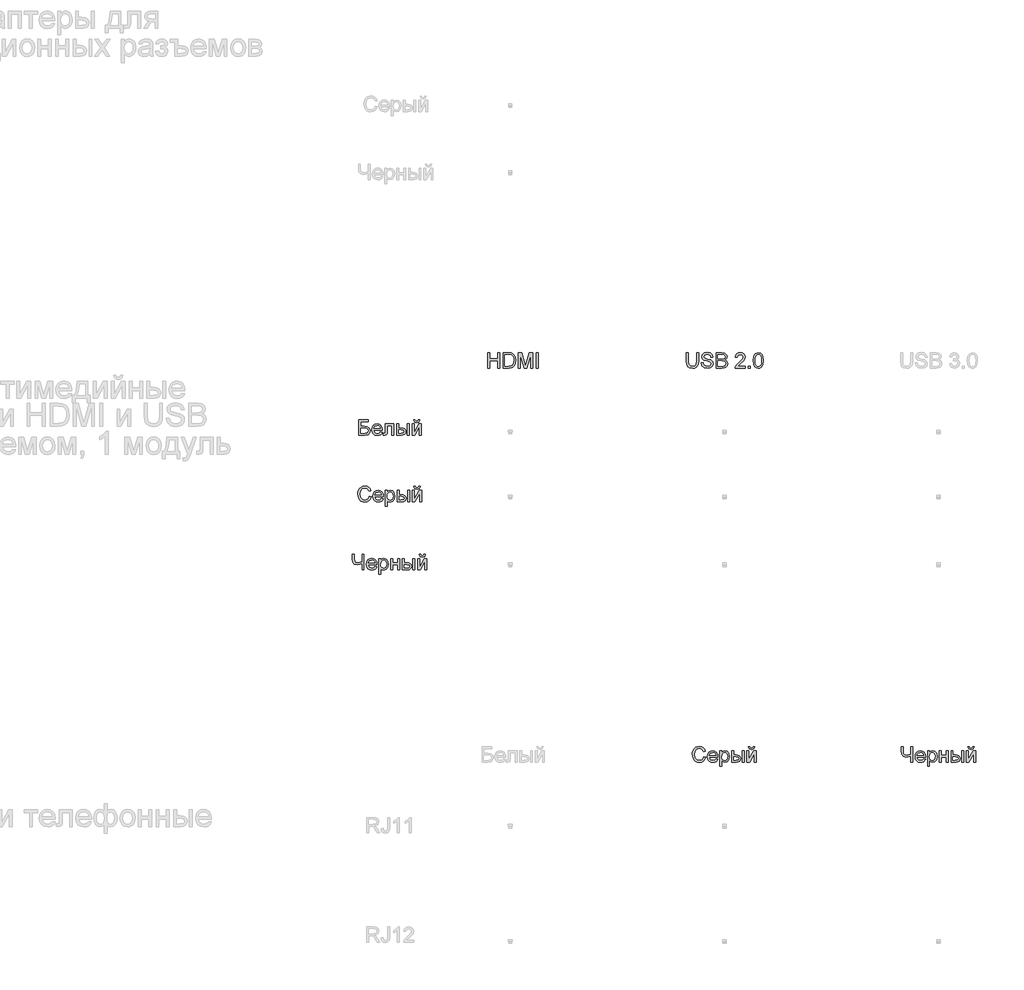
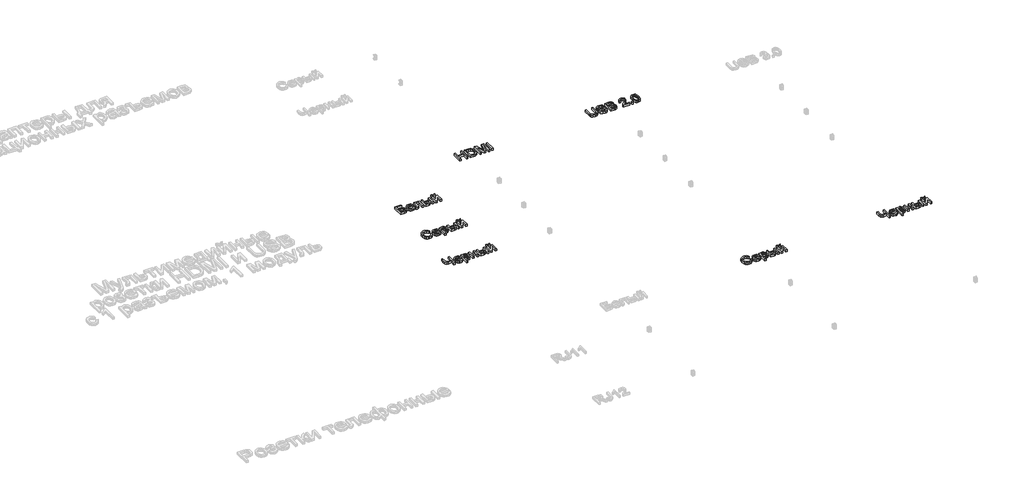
# One storey, part 10 of 15: 7 proxies.
"""IFC4 building model written with IfcOpenShell, lengths in millimetres."""

from ifc_helpers import new_model, si_unit, origin, origin_with_axes, place, context, project, spatial, polyline, outline, extrude, element, save

model = new_model("IFC4")

# Units and contexts
model_context = context("Model", 3, world=origin())
ifc_project = project(units=[si_unit("LENGTHUNIT", "METRE", prefix="MILLI")], contexts=[model_context])

# Site, building, storey
site = spatial("IfcSite", under=ifc_project)
building = spatial("IfcBuilding", under=site)
storey = spatial("IfcBuildingStorey", under=building, Name="Этаж 01", Elevation=0.0)

# Proxies
placement = place(None, origin())
element("IfcBuildingElementProxy", 1, Name="100 мм Arial", ObjectType="100 мм Arial", at=placement, inside=storey, context=model_context, shape_type="SweptSolid", body=[
    extrude(outline(polyline([(1361.0502474, -408.687092), (1361.0502474, -308.2307819), (1373.6072862, -308.2307819), (1373.6072862, -349.0411579), (1426.9747009, -349.0411579), (1426.9747009, -308.2307819), (1439.5317397, -308.2307819), (1439.5317397, -408.687092), (1426.9747009, -408.687092), (1426.9747009, -361.5981967), (1373.6072862, -361.5981967), (1373.6072862, -408.687092), (1361.0502474, -408.687092)])), origin_with_axes(), (0.0, 0.0, 1.0), 20.0),
    extrude(outline(polyline([(1461.5065576, -408.687092), (1461.5065576, -308.2307819), (1496.1610415, -308.2307819), (1514.0891574, -309.6777844), (1528.8534881, -316.8637461), (1540.7483393, -334.0315725), (1544.6969394, -357.9193767), (1542.0236636, -378.1896746), (1535.156533, -392.8191153), (1525.9840086, -401.9303261), (1513.9787928, -406.9703094), (1497.8287732, -408.687092), (1461.5065576, -408.687092)]), holes=[polyline([(1474.0635963, -396.1300533), (1496.2836688, -396.1300533), (1512.4459512, -394.3151688), (1521.7656284, -389.1893463), (1529.4053111, -376.7181467), (1532.1399006, -357.723173), (1530.800197, -344.0379628), (1526.7810862, -333.9334706), (1513.7458009, -322.7989089), (1495.9403123, -320.7878207), (1474.0635963, -320.7878207), (1474.0635963, -396.1300533)])]), origin_with_axes(), (0.0, 0.0, 1.0), 20.0),
    extrude(outline(polyline([(1561.9628677, -408.687092), (1561.9628677, -308.2307819), (1583.5698036, -308.2307819), (1604.1221444, -379.0358032), (1608.2669482, -393.8246594), (1612.7551085, -377.8095299), (1632.9640928, -308.2307819), (1654.5710286, -308.2307819), (1654.5710286, -408.687092), (1642.0139899, -408.687092), (1642.0139899, -320.7878207), (1616.777285, -408.687092), (1599.7566113, -408.687092), (1574.5199065, -320.7878207), (1574.5199065, -408.687092), (1561.9628677, -408.687092)])), origin_with_axes(), (0.0, 0.0, 1.0), 20.0),
    extrude(outline(polyline([(1678.1154763, -408.687092), (1678.1154763, -308.2307819), (1690.6725151, -308.2307819), (1690.6725151, -408.687092), (1678.1154763, -408.687092)])), origin_with_axes(), (0.0, 0.0, 1.0), 20.0),
])
element("IfcBuildingElementProxy", 2, Name="100 мм Arial", ObjectType="100 мм Arial", at=placement, inside=storey, context=model_context, shape_type="SweptSolid", body=[
    extrude(outline(polyline([(2726.9012045, -308.2307819), (2739.4582433, -308.2307819), (2739.4582433, -366.1844589), (2736.0492034, -390.2071532), (2723.7619448, -404.6771783), (2713.4980371, -408.861836), (2700.4627518, -410.2567219), (2677.519178, -405.4006796), (2669.8794952, -399.4563197), (2664.790461, -391.3353246), (2660.976751, -366.1844589), (2660.976751, -308.2307819), (2673.5337897, -308.2307819), (2673.5337897, -365.7430005), (2676.0108618, -384.885127), (2684.5211986, -394.3642197), (2699.2855294, -397.6996831), (2712.057166, -396.0503455), (2720.5491087, -391.1023327), (2725.3131805, -381.4638244), (2726.9012045, -365.7430005), (2726.9012045, -308.2307819)])), origin_with_axes(), (0.0, 0.0, 1.0), 20.0),
    extrude(outline(polyline([(2756.7241716, -374.1552354), (2769.2812103, -374.1552354), (2773.3279123, -386.7245369), (2783.2116752, -394.670788), (2798.2703116, -397.6996831), (2811.391436, -395.406552), (2819.8649847, -389.1035072), (2822.6486251, -380.6790095), (2820.5639605, -372.843123), (2812.0290982, -367.1409521), (2793.745363, -362.3462234), (2774.0636763, -356.1535431), (2763.3828357, -346.8093405), (2759.8634313, -334.3258781), (2764.2167015, -320.1133703), (2776.9331558, -310.0824546), (2795.5479848, -306.6611521), (2815.4136125, -310.2418701), (2828.6573644, -320.7632952), (2833.636034, -336.4841191), (2821.0789953, -336.4841191), (2818.7736014, -328.9915892), (2813.96661, -323.5837238), (2796.0384941, -319.2181908), (2778.0613273, -323.5346729), (2772.42047, -333.9579961), (2776.418121, -342.6645366), (2796.9214109, -349.67882), (2819.1414834, -355.9818649), (2831.293852, -366.1599334), (2835.2056639, -380.3601784), (2830.7052408, -395.3820266), (2817.7557946, -406.34491), (2798.7608209, -410.2567219), (2776.3322819, -406.0383417), (2762.1442996, -393.3341501), (2756.7241716, -374.1552354)])), origin_with_axes(), (0.0, 0.0, 1.0), 20.0),
    extrude(outline(polyline([(2854.041222, -408.687092), (2854.041222, -308.2307819), (2892.3745259, -308.2307819), (2911.1487704, -311.1861006), (2922.2342812, -320.2727859), (2926.2441949, -333.1241302), (2922.8719433, -344.8595659), (2912.6816121, -353.7500474), (2925.0547098, -363.1187756), (2929.3834546, -378.7414976), (2926.4281359, -392.2427669), (2919.1072842, -401.8567497), (2908.181189, -406.9580467), (2892.0802203, -408.687092), (2854.041222, -408.687092)]), holes=[polyline([(2866.5982608, -349.0411579), (2889.5295718, -349.0411579), (2902.9204764, -347.9620374), (2910.9770921, -343.3144615), (2913.6871562, -335.1352185), (2911.1610331, -326.9437127), (2903.9260206, -322.0999331), (2887.7882637, -320.7878207), (2866.5982608, -320.7878207), (2866.5982608, -349.0411579)]), polyline([(2866.5982608, -396.1300533), (2892.3500005, -396.1300533), (2901.6696777, -395.639544), (2909.5546151, -392.9049545), (2914.7785394, -387.3254109), (2916.8264159, -378.864125), (2914.4229202, -369.1029894), (2906.6360846, -363.2781911), (2891.1237271, -361.5981967), (2866.5982608, -361.5981967), (2866.5982608, -396.1300533)])]), origin_with_axes(), (0.0, 0.0, 1.0), 20.0),
    extrude(outline(polyline([(3045.5360632, -396.1300533), (3045.5360632, -408.687092), (2979.6116097, -408.687092), (2980.9605104, -400.0296024), (2988.5879304, -386.7000115), (3004.3087543, -372.1441472), (3025.9892666, -351.2239244), (3031.4093946, -336.9991539), (3026.2958349, -325.4844475), (3012.9417185, -320.7878207), (2999.0235163, -325.3740829), (2993.7382783, -338.053749), (2981.1812396, -336.4841191), (2984.2254631, -324.3378819), (2990.8074851, -315.4657945), (3000.5839491, -310.039535), (3013.2114986, -308.2307819), (3025.9310186, -310.2418701), (3035.6890885, -316.2751349), (3041.8970972, -325.2882437), (3043.9664334, -336.2388645), (3041.734616, -348.1459784), (3034.3156624, -360.4577625), (3016.3262328, -377.6623771), (3001.8807331, -389.7411693), (2996.2153504, -396.1300533), (3045.5360632, -396.1300533)])), origin_with_axes(), (0.0, 0.0, 1.0), 20.0),
    extrude(outline(polyline([(3064.3716214, -408.687092), (3064.3716214, -396.1300533), (3076.9286602, -396.1300533), (3076.9286602, -408.687092), (3064.3716214, -408.687092)])), origin_with_axes(), (0.0, 0.0, 1.0), 20.0),
    extrude(outline(polyline([(3097.3338482, -359.2682774), (3101.0249308, -330.3650153), (3111.9878143, -313.6999609), (3130.2960749, -308.2307819), (3144.9623038, -311.4681435), (3155.0913214, -320.8000834), (3160.9774333, -335.662516), (3163.2583017, -359.2682774), (3159.6040072, -388.0489121), (3148.677912, -404.7507547), (3140.4465523, -408.8802301), (3130.2960749, -410.2567219), (3117.2485268, -407.8654889), (3107.3402384, -400.69179), (3099.8354457, -383.7017732), (3097.3338482, -359.2682774)]), holes=[polyline([(3109.8908869, -359.2437519), (3111.3624149, -378.9959494), (3115.7769989, -390.4278824), (3122.3498238, -395.8817329), (3130.2960749, -397.6996831), (3138.242326, -395.8756016), (3144.815151, -390.4033569), (3149.2297349, -378.9652925), (3150.7012629, -359.2437519), (3149.2787859, -339.9360785), (3145.0113547, -328.4152407), (3138.4507925, -322.6946757), (3130.1489221, -320.7878207), (3122.2885102, -322.4678151), (3115.9732026, -327.5077984), (3111.4114658, -339.7460062), (3109.8908869, -359.2437519)])]), origin_with_axes(), (0.0, 0.0, 1.0), 20.0),
])
element("IfcBuildingElementProxy", 3, Name="100 мм Arial", ObjectType="100 мм Arial", at=placement, inside=storey, context=model_context, shape_type="SweptSolid", body=[
    extrude(outline(polyline([(518.5746136, -747.4706043), (581.3598074, -747.4706043), (581.3598074, -760.0276431), (531.1316523, -760.0276431), (531.1316523, -789.8506101), (554.6515746, -789.8506101), (575.3755936, -792.4012586), (587.7119032, -802.0397669), (592.3472163, -818.5208803), (589.0485411, -832.8314899), (579.2015664, -843.7085342), (556.9079175, -847.9269144), (518.5746136, -847.9269144), (518.5746136, -747.4706043)]), holes=[polyline([(531.1316523, -835.3698757), (558.0360889, -835.3698757), (574.345524, -831.2250719), (578.4290142, -826.0440671), (579.7901776, -818.7906604), (576.6754433, -808.9559484), (568.005691, -803.7074986), (549.0842937, -802.4076489), (531.1316523, -802.4076489), (531.1316523, -835.3698757)])]), origin_with_axes(), (0.0, 0.0, 1.0), 20.0),
    extrude(outline(polyline([(659.6941469, -825.9520966), (672.005931, -827.5217264), (667.5698873, -836.7984841), (660.4912246, -843.7330597), (650.9293584, -848.0556731), (639.0437042, -849.4965443), (624.3100303, -847.0102751), (612.9731335, -839.5514677), (605.7442523, -827.6044999), (603.3346253, -811.6537497), (605.7687778, -795.166505), (613.0712354, -782.8363268), (624.254848, -775.1475931), (638.3324657, -772.5846818), (651.9716907, -775.1414617), (662.8701948, -782.8118013), (670.0163026, -795.117454), (672.3983385, -811.5801733), (672.3247621, -814.9646877), (615.891664, -814.9646877), (618.0652335, -824.3640727), (623.1144139, -831.2741228), (630.401543, -835.5231598), (639.2889589, -836.9395055), (651.600743, -834.3152806), (659.6941469, -825.9520966)]), holes=[polyline([(615.891664, -802.4076489), (659.8412997, -802.4076489), (654.8135791, -791.0278325), (647.4927274, -786.6132486), (638.2834148, -785.1417206), (622.8201083, -789.8383474), (617.9548689, -795.3289862), (615.891664, -802.4076489)])]), origin_with_axes(), (0.0, 0.0, 1.0), 20.0),
    extrude(outline(polyline([(691.2338966, -774.1543117), (747.7405711, -774.1543117), (747.7405711, -847.853338), (735.1835323, -847.853338), (735.1835323, -786.7113504), (703.7909354, -786.7113504), (703.7909354, -821.9053946), (702.9448068, -838.1412534), (698.2972309, -844.9961212), (687.309822, -847.9269144), (677.107228, -847.2892523), (677.107228, -835.3698757), (682.7235598, -835.3698757), (688.4012053, -834.5973235), (690.6698109, -832.1447768), (691.2338966, -821.1941561), (691.2338966, -774.1543117)])), origin_with_axes(), (0.0, 0.0, 1.0), 20.0),
    extrude(outline(polyline([(835.6398425, -774.1543117), (848.1968812, -774.1543117), (848.1968812, -847.9269144), (835.6398425, -847.9269144), (835.6398425, -774.1543117)])), origin_with_axes(), (0.0, 0.0, 1.0), 20.0),
    extrude(outline(polyline([(766.5761292, -774.1543117), (779.133168, -774.1543117), (779.133168, -800.8380191), (794.6577882, -800.8380191), (808.076284, -802.4107146), (818.0182949, -807.1288012), (824.1711213, -814.6121341), (826.2220634, -824.4805686), (824.5022151, -833.4660863), (819.3426701, -841.0475211), (810.4062033, -846.2070661), (797.3555895, -847.9269144), (766.5761292, -847.9269144), (766.5761292, -774.1543117)]), holes=[polyline([(779.133168, -835.3698757), (792.0335633, -835.3698757), (808.686355, -832.733388), (813.6650246, -824.5050941), (809.9739419, -816.7795722), (793.6767696, -813.3950578), (779.133168, -813.3950578), (779.133168, -835.3698757)])]), origin_with_axes(), (0.0, 0.0, 1.0), 20.0),
    extrude(outline(polyline([(867.0324394, -774.1543117), (879.5894782, -774.1543117), (879.5894782, -830.4157315), (910.4425148, -774.1543117), (926.6783735, -774.1543117), (926.6783735, -847.9269144), (914.1213348, -847.9269144), (914.1213348, -792.0088512), (883.4645018, -847.9269144), (867.0324394, -847.9269144), (867.0324394, -774.1543117)])), origin_with_axes(), (0.0, 0.0, 1.0), 20.0),
    extrude(outline(polyline([(907.8428154, -747.4706043), (917.2605945, -747.4706043), (911.1660161, -761.4378574), (897.6402214, -766.3061624), (882.998518, -761.4746456), (876.4502185, -747.4706043), (885.8679975, -747.4706043), (889.3996647, -754.5462013), (896.5120499, -756.8883834), (904.3111482, -754.6197777), (907.8428154, -747.4706043)])), origin_with_axes(), (0.0, 0.0, 1.0), 20.0),
])
element("IfcBuildingElementProxy", 4, Name="100 мм Arial", ObjectType="100 мм Arial", at=placement, inside=storey, context=model_context, shape_type="SweptSolid", body=[
    extrude(outline(polyline([(586.8535119, -1247.2178354), (599.4105506, -1250.455197), (593.6164092, -1265.0877034), (584.5235926, -1275.777741), (572.5796905, -1282.3168435), (558.2322926, -1284.4965443), (543.6672313, -1282.8472067), (532.1004083, -1277.8991938), (523.2344522, -1269.824184), (516.7719918, -1258.7938556), (511.5112793, -1231.9384699), (512.9981357, -1217.2906351), (517.4587048, -1204.6416259), (524.6599949, -1194.3930466), (534.3690139, -1186.9465019), (545.8837203, -1182.4123563), (558.5020728, -1180.9009744), (572.2700564, -1182.8568804), (583.6529385, -1188.7245982), (592.2950997, -1198.1423773), (597.8409208, -1210.748467), (585.283882, -1213.7405739), (574.9831862, -1198.3017928), (558.0115634, -1193.4580132), (538.3666649, -1198.8290903), (527.2688914, -1213.2500646), (524.068318, -1231.9139444), (527.8575026, -1253.5454058), (539.6542519, -1267.365506), (556.9814939, -1271.9395055), (567.463065, -1270.3821384), (576.1971967, -1265.7100371), (582.7914815, -1257.9722524), (586.8535119, -1247.2178354)])), origin_with_axes(), (0.0, 0.0, 1.0), 20.0),
    extrude(outline(polyline([(666.7574812, -1260.9520966), (679.0692653, -1262.5217264), (674.6332216, -1271.7984841), (667.5545589, -1278.7330597), (657.9926927, -1283.0556731), (646.1070386, -1284.4965443), (631.3733647, -1282.0102751), (620.0364678, -1274.5514677), (612.8075866, -1262.6044999), (610.3979596, -1246.6537497), (612.8321121, -1230.166505), (620.1345697, -1217.8363268), (631.3181824, -1210.1475931), (645.3958, -1207.5846818), (659.035025, -1210.1414617), (669.9335291, -1217.8118013), (677.0796369, -1230.117454), (679.4616728, -1246.5801733), (679.3880964, -1249.9646877), (622.9549983, -1249.9646877), (625.1285678, -1259.3640727), (630.1777482, -1266.2741228), (637.4648774, -1270.5231598), (646.3522932, -1271.9395055), (658.6640773, -1269.3152806), (666.7574812, -1260.9520966)]), holes=[polyline([(622.9549983, -1237.4076489), (666.904634, -1237.4076489), (661.8769134, -1226.0278325), (654.5560617, -1221.6132486), (645.3467491, -1220.1417206), (629.8834426, -1224.8383474), (625.0182032, -1230.3289862), (622.9549983, -1237.4076489)])]), origin_with_axes(), (0.0, 0.0, 1.0), 20.0),
    extrude(outline(polyline([(692.0187116, -1311.1802517), (692.0187116, -1209.1543117), (704.5757503, -1209.1543117), (704.5757503, -1221.4660958), (713.2577654, -1211.0550353), (724.9809383, -1207.5846818), (740.897966, -1212.4407242), (751.2967637, -1226.1259344), (754.8039054, -1245.4765273), (750.8430426, -1265.8204017), (739.3405989, -1279.6772902), (723.4603594, -1284.4965443), (712.5342642, -1281.2714455), (704.5757503, -1273.1167279), (704.5757503, -1311.1802517), (692.0187116, -1311.1802517)]), holes=[polyline([(704.5757503, -1246.6292243), (705.933848, -1257.8864133), (710.0081411, -1265.759088), (716.0199461, -1270.3944011), (723.1905793, -1271.9395055), (730.4777085, -1270.3392188), (736.6427976, -1265.5383588), (740.8458494, -1257.3775099), (742.2468666, -1245.6972565), (740.8795719, -1234.5013811), (736.7776876, -1226.5183418), (730.7750797, -1221.7358759), (723.7056141, -1220.1417206), (716.6085572, -1221.8370435), (710.3760231, -1226.923012), (706.0258185, -1235.2402108), (704.5757503, -1246.6292243)])]), origin_with_axes(), (0.0, 0.0, 1.0), 20.0),
    extrude(outline(polyline([(837.9942872, -1209.1543117), (850.551326, -1209.1543117), (850.551326, -1282.9269144), (837.9942872, -1282.9269144), (837.9942872, -1209.1543117)])), origin_with_axes(), (0.0, 0.0, 1.0), 20.0),
    extrude(outline(polyline([(768.930574, -1209.1543117), (781.4876128, -1209.1543117), (781.4876128, -1235.8380191), (797.012233, -1235.8380191), (810.4307288, -1237.4107146), (820.3727397, -1242.1288012), (826.525566, -1249.6121341), (828.5765082, -1259.4805686), (826.8566598, -1268.4660863), (821.6971149, -1276.0475211), (812.7606481, -1281.2070661), (799.7100343, -1282.9269144), (768.930574, -1282.9269144), (768.930574, -1209.1543117)]), holes=[polyline([(781.4876128, -1270.3698757), (794.3880081, -1270.3698757), (811.0407997, -1267.733388), (816.0194694, -1259.5050941), (812.3283867, -1251.7795722), (796.0312143, -1248.3950578), (781.4876128, -1248.3950578), (781.4876128, -1270.3698757)])]), origin_with_axes(), (0.0, 0.0, 1.0), 20.0),
    extrude(outline(polyline([(910.1972602, -1182.4706043), (919.6150392, -1182.4706043), (913.5204609, -1196.4378574), (899.9946662, -1201.3061624), (885.3529628, -1196.4746456), (878.8046632, -1182.4706043), (888.2224423, -1182.4706043), (891.7541095, -1189.5462013), (898.8664947, -1191.8883834), (906.665593, -1189.6197777), (910.1972602, -1182.4706043)])), origin_with_axes(), (0.0, 0.0, 1.0), 20.0),
    extrude(outline(polyline([(869.3868842, -1209.1543117), (881.9439229, -1209.1543117), (881.9439229, -1265.4157315), (912.7969596, -1209.1543117), (929.0328183, -1209.1543117), (929.0328183, -1282.9269144), (916.4757795, -1282.9269144), (916.4757795, -1227.0088512), (885.8189466, -1282.9269144), (869.3868842, -1282.9269144), (869.3868842, -1209.1543117)])), origin_with_axes(), (0.0, 0.0, 1.0), 20.0),
])
element("IfcBuildingElementProxy", 5, Name="100 мм Arial", ObjectType="100 мм Arial", at=placement, inside=storey, context=model_context, shape_type="SweptSolid", body=[
    extrude(outline(polyline([(552.3216553, -1727.9269144), (539.7646165, -1727.9269144), (539.7646165, -1687.7051496), (508.6663252, -1694.9646877), (490.3090136, -1689.9982807), (479.6649612, -1677.392191), (476.9794226, -1657.3916732), (476.9794226, -1627.4706043), (489.5364614, -1627.4706043), (489.5364614, -1655.6994161), (491.0447776, -1669.2773274), (495.5697261, -1677.2450382), (510.0642767, -1682.4076489), (539.7646165, -1676.1781805), (539.7646165, -1627.4706043), (552.3216553, -1627.4706043), (552.3216553, -1727.9269144)])), origin_with_axes(), (0.0, 0.0, 1.0), 20.0),
    extrude(outline(polyline([(624.3774754, -1705.9520966), (636.6892595, -1707.5217264), (632.2532158, -1716.7984841), (625.174553, -1723.7330597), (615.6126868, -1728.0556731), (603.7270327, -1729.4965443), (588.9933588, -1727.0102751), (577.656462, -1719.5514677), (570.4275808, -1707.6044999), (568.0179537, -1691.6537497), (570.4521062, -1675.166505), (577.7545639, -1662.8363268), (588.9381765, -1655.1475931), (603.0157942, -1652.5846818), (616.6550192, -1655.1414617), (627.5535233, -1662.8118013), (634.699631, -1675.117454), (637.0816669, -1691.5801733), (637.0080905, -1694.9646877), (580.5749925, -1694.9646877), (582.7485619, -1704.3640727), (587.7977423, -1711.2741228), (595.0848715, -1715.5231598), (603.9722874, -1716.9395055), (616.2840715, -1714.3152806), (624.3774754, -1705.9520966)]), holes=[polyline([(580.5749925, -1682.4076489), (624.5246282, -1682.4076489), (619.4969076, -1671.0278325), (612.1760559, -1666.6132486), (602.9667433, -1665.1417206), (587.5034367, -1669.8383474), (582.6381973, -1675.3289862), (580.5749925, -1682.4076489)])]), origin_with_axes(), (0.0, 0.0, 1.0), 20.0),
    extrude(outline(polyline([(649.6387057, -1756.1802517), (649.6387057, -1654.1543117), (662.1957445, -1654.1543117), (662.1957445, -1666.4660958), (670.8777596, -1656.0550353), (682.6009325, -1652.5846818), (698.5179601, -1657.4407242), (708.9167579, -1671.1259344), (712.4238996, -1690.4765273), (708.4630367, -1710.8204017), (696.960593, -1724.6772902), (681.0803536, -1729.4965443), (670.1542583, -1726.2714455), (662.1957445, -1718.1167279), (662.1957445, -1756.1802517), (649.6387057, -1756.1802517)]), holes=[polyline([(662.1957445, -1691.6292243), (663.5538422, -1702.8864133), (667.6281353, -1710.759088), (673.6399402, -1715.3944011), (680.8105734, -1716.9395055), (688.0977026, -1715.3392188), (694.2627917, -1710.5383588), (698.4658435, -1702.3775099), (699.8668608, -1690.6972565), (698.499566, -1679.5013811), (694.3976818, -1671.5183418), (688.3950739, -1666.7358759), (681.3256082, -1665.1417206), (674.2285514, -1666.8370435), (667.9960173, -1671.923012), (663.6458127, -1680.2402108), (662.1957445, -1691.6292243)])]), origin_with_axes(), (0.0, 0.0, 1.0), 20.0),
    extrude(outline(polyline([(726.5505682, -1654.1543117), (739.1076069, -1654.1543117), (739.1076069, -1682.4076489), (772.0698337, -1682.4076489), (772.0698337, -1654.1543117), (784.6268725, -1654.1543117), (784.6268725, -1727.9269144), (772.0698337, -1727.9269144), (772.0698337, -1694.9646877), (739.1076069, -1694.9646877), (739.1076069, -1727.9269144), (726.5505682, -1727.9269144), (726.5505682, -1654.1543117)])), origin_with_axes(), (0.0, 0.0, 1.0), 20.0),
    extrude(outline(polyline([(803.4624306, -1654.1543117), (816.0194694, -1654.1543117), (816.0194694, -1680.8380191), (831.5440896, -1680.8380191), (844.9625854, -1682.4107146), (854.9045963, -1687.1288012), (861.0574227, -1694.6121341), (863.1083648, -1704.4805686), (861.3885165, -1713.4660863), (856.2289715, -1721.0475211), (847.2925047, -1726.2070661), (834.2418909, -1727.9269144), (803.4624306, -1727.9269144), (803.4624306, -1654.1543117)]), holes=[polyline([(816.0194694, -1715.3698757), (828.9198647, -1715.3698757), (845.5726563, -1712.733388), (850.551326, -1704.5050941), (846.8602433, -1696.7795722), (830.5630709, -1693.3950578), (816.0194694, -1693.3950578), (816.0194694, -1715.3698757)])]), origin_with_axes(), (0.0, 0.0, 1.0), 20.0),
    extrude(outline(polyline([(872.5261439, -1654.1543117), (885.0831826, -1654.1543117), (885.0831826, -1727.9269144), (872.5261439, -1727.9269144), (872.5261439, -1654.1543117)])), origin_with_axes(), (0.0, 0.0, 1.0), 20.0),
    extrude(outline(polyline([(903.9187408, -1654.1543117), (916.4757795, -1654.1543117), (916.4757795, -1710.4157315), (947.3288162, -1654.1543117), (963.5646749, -1654.1543117), (963.5646749, -1727.9269144), (951.0076362, -1727.9269144), (951.0076362, -1672.0088512), (920.3508032, -1727.9269144), (903.9187408, -1727.9269144), (903.9187408, -1654.1543117)])), origin_with_axes(), (0.0, 0.0, 1.0), 20.0),
    extrude(outline(polyline([(944.7291168, -1627.4706043), (954.1468959, -1627.4706043), (948.0523175, -1641.4378574), (934.5265228, -1646.3061624), (919.8848194, -1641.4746456), (913.3365199, -1627.4706043), (922.7542989, -1627.4706043), (926.2859661, -1634.5462013), (933.3983513, -1636.8883834), (941.1974496, -1634.6197777), (944.7291168, -1627.4706043)])), origin_with_axes(), (0.0, 0.0, 1.0), 20.0),
])
element("IfcBuildingElementProxy", 6, Name="100 мм Arial", ObjectType="100 мм Arial", at=placement, inside=storey, context=model_context, shape_type="SweptSolid", body=[
    extrude(outline(polyline([(2773.9900999, -2949.6900146), (2786.5471386, -2952.9273761), (2780.7529972, -2967.5598825), (2771.6601806, -2978.2499201), (2759.7162785, -2984.7890226), (2745.3688806, -2986.9687234), (2730.8038193, -2985.3193858), (2719.2369963, -2980.371373), (2710.3710402, -2972.2963632), (2703.9085798, -2961.2660347), (2698.6478673, -2934.410649), (2700.1347237, -2919.7628143), (2704.5952928, -2907.113805), (2711.7965829, -2896.8652257), (2721.5056019, -2889.418681), (2733.0203083, -2884.8845354), (2745.6386608, -2883.3731536), (2759.4066444, -2885.3290595), (2770.7895265, -2891.1967773), (2779.4316877, -2900.6145564), (2784.9775088, -2913.2206461), (2772.42047, -2916.212753), (2762.1197742, -2900.7739719), (2745.1481514, -2895.9301923), (2725.5032529, -2901.3012695), (2714.4054794, -2915.7222437), (2711.204906, -2934.3861236), (2714.9940906, -2956.0175849), (2726.7908399, -2969.8376852), (2744.1180819, -2974.4116846), (2754.599653, -2972.8543175), (2763.3337847, -2968.1822162), (2769.9280695, -2960.4444316), (2773.9900999, -2949.6900146)])), origin_with_axes(), (0.0, 0.0, 1.0), 20.0),
    extrude(outline(polyline([(2853.8940692, -2963.4242757), (2866.2058533, -2964.9939056), (2861.7698096, -2974.2706632), (2854.6911469, -2981.2052388), (2845.1292807, -2985.5278523), (2833.2436266, -2986.9687234), (2818.5099527, -2984.4824543), (2807.1730558, -2977.0236468), (2799.9441746, -2965.076679), (2797.5345476, -2949.1259288), (2799.9687001, -2932.6386841), (2807.2711577, -2920.3085059), (2818.4547704, -2912.6197722), (2832.532388, -2910.056861), (2846.171613, -2912.6136408), (2857.0701171, -2920.2839804), (2864.2162249, -2932.5896332), (2866.5982608, -2949.0523524), (2866.5246844, -2952.4368668), (2810.0915863, -2952.4368668), (2812.2651558, -2961.8362518), (2817.3143362, -2968.7463019), (2824.6014654, -2972.995339), (2833.4888812, -2974.4116846), (2845.8006653, -2971.7874598), (2853.8940692, -2963.4242757)]), holes=[polyline([(2810.0915863, -2939.879828), (2854.041222, -2939.879828), (2849.0135014, -2928.5000117), (2841.6926497, -2924.0854277), (2832.4833371, -2922.6138997), (2817.0200306, -2927.3105265), (2812.1547912, -2932.8011653), (2810.0915863, -2939.879828)])]), origin_with_axes(), (0.0, 0.0, 1.0), 20.0),
    extrude(outline(polyline([(2879.1552996, -3013.6524308), (2879.1552996, -2911.6264908), (2891.7123383, -2911.6264908), (2891.7123383, -2923.9382749), (2900.3943534, -2913.5272144), (2912.1175263, -2910.056861), (2928.034554, -2914.9129033), (2938.4333517, -2928.5981135), (2941.9404934, -2947.9487065), (2937.9796306, -2968.2925808), (2926.4771869, -2982.1494693), (2910.5969474, -2986.9687234), (2899.6708522, -2983.7436246), (2891.7123383, -2975.588907), (2891.7123383, -3013.6524308), (2879.1552996, -3013.6524308)]), holes=[polyline([(2891.7123383, -2949.1014034), (2893.070436, -2960.3585924), (2897.1447291, -2968.2312671), (2903.1565341, -2972.8665803), (2910.3271673, -2974.4116846), (2917.6142965, -2972.811398), (2923.7793856, -2968.0105379), (2927.9824374, -2959.849689), (2929.3834546, -2948.1694357), (2928.0161599, -2936.9735603), (2923.9142756, -2928.990521), (2917.9116677, -2924.208055), (2910.8422021, -2922.6138997), (2903.7451453, -2924.3092226), (2897.5126111, -2929.3951912), (2893.1624065, -2937.7123899), (2891.7123383, -2949.1014034)])]), origin_with_axes(), (0.0, 0.0, 1.0), 20.0),
    extrude(outline(polyline([(3025.1308752, -2911.6264908), (3037.687914, -2911.6264908), (3037.687914, -2985.3990936), (3025.1308752, -2985.3990936), (3025.1308752, -2911.6264908)])), origin_with_axes(), (0.0, 0.0, 1.0), 20.0),
    extrude(outline(polyline([(2956.067162, -2911.6264908), (2968.6242008, -2911.6264908), (2968.6242008, -2938.3101982), (2984.148821, -2938.3101982), (2997.5673168, -2939.8828937), (3007.5093277, -2944.6009803), (3013.662154, -2952.0843132), (3015.7130962, -2961.9527477), (3013.9932478, -2970.9382655), (3008.8337029, -2978.5197003), (2999.8972361, -2983.6792452), (2986.8466223, -2985.3990936), (2956.067162, -2985.3990936), (2956.067162, -2911.6264908)]), holes=[polyline([(2968.6242008, -2972.8420548), (2981.5245961, -2972.8420548), (2998.1773877, -2970.2055672), (3003.1560574, -2961.9772732), (2999.4649747, -2954.2517513), (2983.1678023, -2950.867237), (2968.6242008, -2950.867237), (2968.6242008, -2972.8420548)])]), origin_with_axes(), (0.0, 0.0, 1.0), 20.0),
    extrude(outline(polyline([(3097.3338482, -2884.9427834), (3106.7516272, -2884.9427834), (3100.6570489, -2898.9100365), (3087.1312542, -2903.7783416), (3072.4895508, -2898.9468247), (3065.9412512, -2884.9427834), (3075.3590303, -2884.9427834), (3078.8906975, -2892.0183805), (3086.0030827, -2894.3605625), (3093.802181, -2892.0919569), (3097.3338482, -2884.9427834)])), origin_with_axes(), (0.0, 0.0, 1.0), 20.0),
    extrude(outline(polyline([(3056.5234722, -2911.6264908), (3069.0805109, -2911.6264908), (3069.0805109, -2967.8879106), (3099.9335476, -2911.6264908), (3116.1694063, -2911.6264908), (3116.1694063, -2985.3990936), (3103.6123675, -2985.3990936), (3103.6123675, -2929.4810303), (3072.9555346, -2985.3990936), (3056.5234722, -2985.3990936), (3056.5234722, -2911.6264908)])), origin_with_axes(), (0.0, 0.0, 1.0), 20.0),
])
element("IfcBuildingElementProxy", 7, Name="100 мм Arial", ObjectType="100 мм Arial", at=placement, inside=storey, context=model_context, shape_type="SweptSolid", body=[
    extrude(outline(polyline([(4139.4582433, -2985.3990936), (4126.9012045, -2985.3990936), (4126.9012045, -2945.1773288), (4095.8029132, -2952.4368668), (4077.4456016, -2947.4704599), (4066.8015492, -2934.8643702), (4064.1160106, -2914.8638524), (4064.1160106, -2884.9427834), (4076.6730494, -2884.9427834), (4076.6730494, -2913.1715952), (4078.1813656, -2926.7495065), (4082.7063141, -2934.7172174), (4097.2008647, -2939.879828), (4126.9012045, -2933.6503596), (4126.9012045, -2884.9427834), (4139.4582433, -2884.9427834), (4139.4582433, -2985.3990936)])), origin_with_axes(), (0.0, 0.0, 1.0), 20.0),
    extrude(outline(polyline([(4211.5140634, -2963.4242757), (4223.8258475, -2964.9939056), (4219.3898038, -2974.2706632), (4212.311141, -2981.2052388), (4202.7492748, -2985.5278523), (4190.8636207, -2986.9687234), (4176.1299468, -2984.4824543), (4164.79305, -2977.0236468), (4157.5641688, -2965.076679), (4155.1545417, -2949.1259288), (4157.5886943, -2932.6386841), (4164.8911519, -2920.3085059), (4176.0747645, -2912.6197722), (4190.1523822, -2910.056861), (4203.7916072, -2912.6136408), (4214.6901113, -2920.2839804), (4221.836219, -2932.5896332), (4224.2182549, -2949.0523524), (4224.1446785, -2952.4368668), (4167.7115805, -2952.4368668), (4169.8851499, -2961.8362518), (4174.9343303, -2968.7463019), (4182.2214595, -2972.995339), (4191.1088754, -2974.4116846), (4203.4206595, -2971.7874598), (4211.5140634, -2963.4242757)]), holes=[polyline([(4167.7115805, -2939.879828), (4211.6612162, -2939.879828), (4206.6334956, -2928.5000117), (4199.3126439, -2924.0854277), (4190.1033313, -2922.6138997), (4174.6400247, -2927.3105265), (4169.7747853, -2932.8011653), (4167.7115805, -2939.879828)])]), origin_with_axes(), (0.0, 0.0, 1.0), 20.0),
    extrude(outline(polyline([(4236.7752937, -3013.6524308), (4236.7752937, -2911.6264908), (4249.3323325, -2911.6264908), (4249.3323325, -2923.9382749), (4258.0143476, -2913.5272144), (4269.7375205, -2910.056861), (4285.6545481, -2914.9129033), (4296.0533459, -2928.5981135), (4299.5604876, -2947.9487065), (4295.5996247, -2968.2925808), (4284.097181, -2982.1494693), (4268.2169416, -2986.9687234), (4257.2908463, -2983.7436246), (4249.3323325, -2975.588907), (4249.3323325, -3013.6524308), (4236.7752937, -3013.6524308)]), holes=[polyline([(4249.3323325, -2949.1014034), (4250.6904302, -2960.3585924), (4254.7647233, -2968.2312671), (4260.7765282, -2972.8665803), (4267.9471614, -2974.4116846), (4275.2342906, -2972.811398), (4281.3993797, -2968.0105379), (4285.6024315, -2959.849689), (4287.0034488, -2948.1694357), (4285.636154, -2936.9735603), (4281.5342698, -2928.990521), (4275.5316619, -2924.208055), (4268.4621962, -2922.6138997), (4261.3651394, -2924.3092226), (4255.1326053, -2929.3951912), (4250.7824007, -2937.7123899), (4249.3323325, -2949.1014034)])]), origin_with_axes(), (0.0, 0.0, 1.0), 20.0),
    extrude(outline(polyline([(4313.6871562, -2911.6264908), (4326.2441949, -2911.6264908), (4326.2441949, -2939.879828), (4359.2064217, -2939.879828), (4359.2064217, -2911.6264908), (4371.7634605, -2911.6264908), (4371.7634605, -2985.3990936), (4359.2064217, -2985.3990936), (4359.2064217, -2952.4368668), (4326.2441949, -2952.4368668), (4326.2441949, -2985.3990936), (4313.6871562, -2985.3990936), (4313.6871562, -2911.6264908)])), origin_with_axes(), (0.0, 0.0, 1.0), 20.0),
    extrude(outline(polyline([(4459.6627319, -2911.6264908), (4472.2197706, -2911.6264908), (4472.2197706, -2985.3990936), (4459.6627319, -2985.3990936), (4459.6627319, -2911.6264908)])), origin_with_axes(), (0.0, 0.0, 1.0), 20.0),
    extrude(outline(polyline([(4390.5990186, -2911.6264908), (4403.1560574, -2911.6264908), (4403.1560574, -2938.3101982), (4418.6806776, -2938.3101982), (4432.0991734, -2939.8828937), (4442.0411843, -2944.6009803), (4448.1940107, -2952.0843132), (4450.2449528, -2961.9527477), (4448.5251045, -2970.9382655), (4443.3655595, -2978.5197003), (4434.4290927, -2983.6792452), (4421.3784789, -2985.3990936), (4390.5990186, -2985.3990936), (4390.5990186, -2911.6264908)]), holes=[polyline([(4403.1560574, -2972.8420548), (4416.0564527, -2972.8420548), (4432.7092443, -2970.2055672), (4437.687914, -2961.9772732), (4433.9968313, -2954.2517513), (4417.6996589, -2950.867237), (4403.1560574, -2950.867237), (4403.1560574, -2972.8420548)])]), origin_with_axes(), (0.0, 0.0, 1.0), 20.0),
    extrude(outline(polyline([(4491.0553288, -2911.6264908), (4503.6123675, -2911.6264908), (4503.6123675, -2967.8879106), (4534.4654042, -2911.6264908), (4550.7012629, -2911.6264908), (4550.7012629, -2985.3990936), (4538.1442242, -2985.3990936), (4538.1442242, -2929.4810303), (4507.4873912, -2985.3990936), (4491.0553288, -2985.3990936), (4491.0553288, -2911.6264908)])), origin_with_axes(), (0.0, 0.0, 1.0), 20.0),
    extrude(outline(polyline([(4531.8657048, -2884.9427834), (4541.2834839, -2884.9427834), (4535.1889055, -2898.9100365), (4521.6631108, -2903.7783416), (4507.0214074, -2898.9468247), (4500.4731079, -2884.9427834), (4509.8908869, -2884.9427834), (4513.4225541, -2892.0183805), (4520.5349393, -2894.3605625), (4528.3340376, -2892.0919569), (4531.8657048, -2884.9427834)])), origin_with_axes(), (0.0, 0.0, 1.0), 20.0),
])

save(model, "model.ifc")
